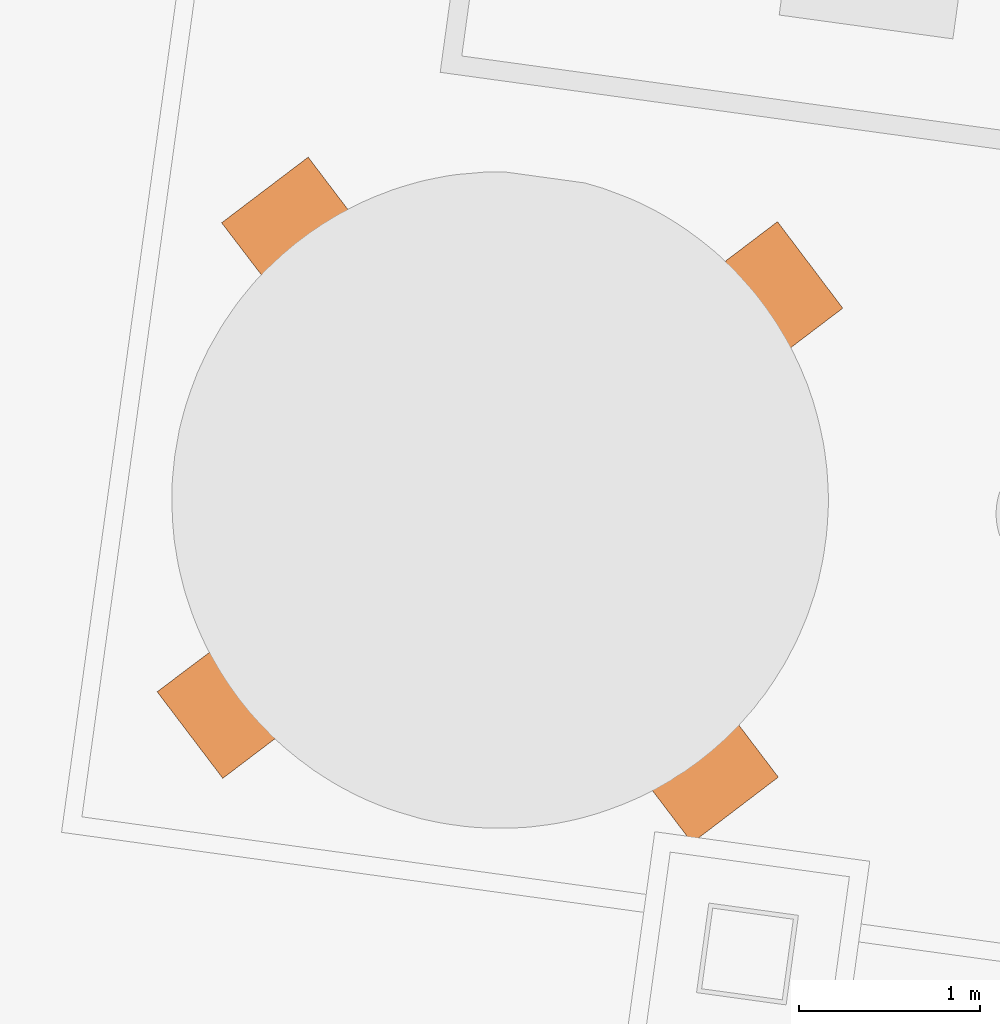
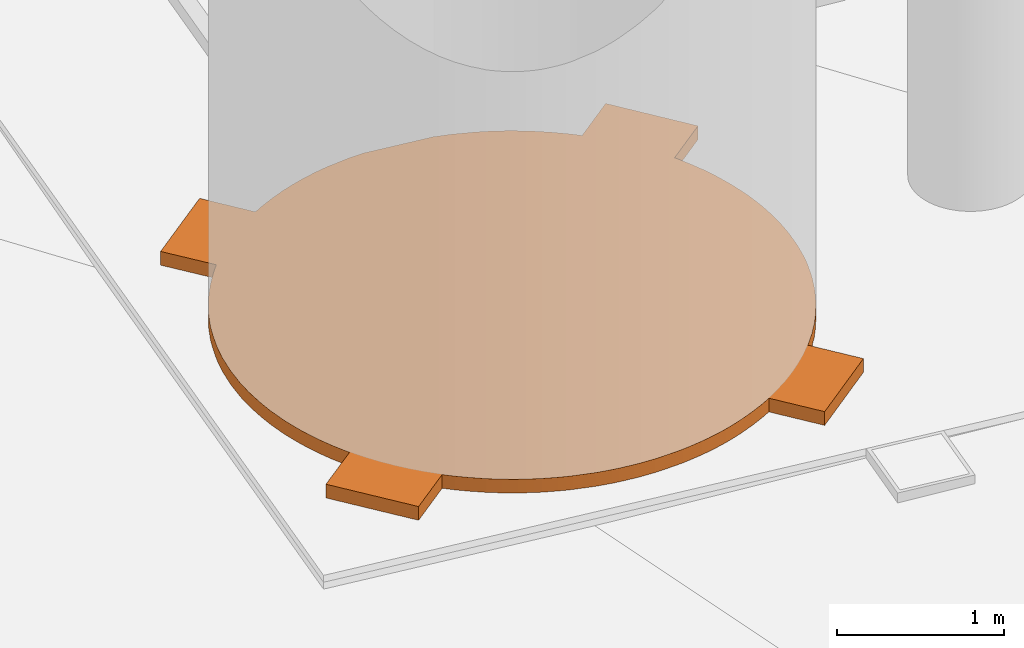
# Not in any storey, part 68 of 75: 1 proxy.
"""IFC4 model written with IfcOpenShell, lengths in metres."""

import ifcopenshell
import ifcopenshell.guid

model = None  # the IFC model being written
_history = None  # IfcOwnerHistory: only IFC2X3 demands one
_inside = {}  # id of a spatial element -> (the spatial element, [elements in it])
_under = {}  # id of a project, library or spatial element -> (it, [spatial elements below it])
_declared = {}  # id of a project -> (the project, [libraries it declares])
_typed = {}  # id of a type object -> (the type object, [elements of that type])
_made_of = {}  # id of a material, layer set ... -> (it, [elements and type objects made of it])


def new_model(schema):
    """Start an empty IFC model of exactly this schema.

    Asked for "IFC4X3", IfcOpenShell would pick the latest addendum, in which some entities
    have other attributes; the version numbers below select the first issue.
    IFC2X3 requires an IfcOwnerHistory on every rooted entity: one is made here for all.
    """
    global model, _history
    if schema == "IFC4X3":
        model = ifcopenshell.file(schema_version=(4, 3, 0, 0))
    else:
        model = ifcopenshell.file(schema=schema)
    _inside.clear()
    _under.clear()
    _declared.clear()
    _typed.clear()
    _made_of.clear()
    _history = None
    if model.schema == "IFC2X3":
        org = make("IfcOrganization", Name="unknown")
        user = make(
            "IfcPersonAndOrganization",
            ThePerson=make("IfcPerson", FamilyName="unknown"),
            TheOrganization=org,
        )
        app = make(
            "IfcApplication",
            ApplicationDeveloper=org,
            Version="unknown",
            ApplicationFullName="unknown",
            ApplicationIdentifier="unknown",
        )
        _history = make(
            "IfcOwnerHistory",
            OwningUser=user,
            OwningApplication=app,
            ChangeAction="ADDED",
            CreationDate=0,
        )
    return model


def make(cls, **values):
    """One entity of the class cls with the attributes given. An attribute that is None is left unset."""
    return model.create_entity(
        cls, **{name: value for name, value in values.items() if value is not None}
    )


def rooted(cls, **values):
    """An entity with a GlobalId (a new one), such as an element, a storey or a relation."""
    return make(cls, GlobalId=ifcopenshell.guid.new(), OwnerHistory=_history, **values)


def si_unit(unit_type, name, prefix=None):
    """IfcSIUnit, for example si_unit("LENGTHUNIT", "METRE", prefix="MILLI")."""
    return make("IfcSIUnit", UnitType=unit_type, Prefix=prefix, Name=name)


def assignment(units):
    """IfcUnitAssignment: the units of a project."""
    return None if units is None else make("IfcUnitAssignment", Units=units)


def point(xyz):
    """IfcCartesianPoint."""
    return None if xyz is None else make("IfcCartesianPoint", Coordinates=xyz)


def direction(xyz):
    """IfcDirection."""
    return None if xyz is None else make("IfcDirection", DirectionRatios=xyz)


def frame(location, z_axis=None, x_axis=None):
    """IfcAxis2Placement3D, a coordinate frame: its origin and axes. An axis left out is left unset."""
    return make(
        "IfcAxis2Placement3D",
        Location=point(location),
        Axis=direction(z_axis),
        RefDirection=direction(x_axis),
    )


def origin():
    """The frame at (0, 0, 0) with its axes left unset."""
    return frame((0.0, 0.0, 0.0))


def origin_with_axes():
    """The frame at (0, 0, 0) with the z axis (0, 0, 1) and the x axis (1, 0, 0) written out."""
    return frame((0.0, 0.0, 0.0), z_axis=(0.0, 0.0, 1.0), x_axis=(1.0, 0.0, 0.0))


def place(relative_to, where):
    """IfcLocalPlacement: puts the frame where relative to a parent placement (None: the world)."""
    return make(
        "IfcLocalPlacement", PlacementRelTo=relative_to, RelativePlacement=where
    )


def context(
    kind, dimensions, precision=None, world=None, true_north=None, identifier=None
):
    """IfcGeometricRepresentationContext, for example the 3D "Model" context."""
    return make(
        "IfcGeometricRepresentationContext",
        ContextIdentifier=identifier,
        ContextType=kind,
        CoordinateSpaceDimension=dimensions,
        Precision=precision,
        WorldCoordinateSystem=world,
        TrueNorth=true_north,
    )


def subcontext(parent, identifier, kind, view, scale=None):
    """IfcGeometricRepresentationSubContext, for example "Body" below "Model"."""
    return make(
        "IfcGeometricRepresentationSubContext",
        ContextIdentifier=identifier,
        ContextType=kind,
        ParentContext=parent,
        TargetScale=scale,
        TargetView=view,
    )


def project(units=None, contexts=None):
    """IfcProject with its units and contexts."""
    return rooted(
        "IfcProject",
        Name="project",
        RepresentationContexts=contexts,
        UnitsInContext=assignment(units),
    )


def spatial(cls, under=None, at=None, **own):
    """A site, building, storey or space (cls), placed at a placement, below another one or the project."""
    s = rooted(cls, ObjectPlacement=at, **own)
    if under is not None:
        _under.setdefault(under.id(), (under, []))[1].append(s)
    return s


def point_list(points):
    """IfcCartesianPointList2D or 3D."""
    cls = (
        "IfcCartesianPointList2D" if len(points[0]) == 2 else "IfcCartesianPointList3D"
    )
    return make(cls, CoordList=points)


def triangles(points, corners, closed=None, point_numbers=None):
    """IfcTriangulatedFaceSet: each triangle names its three corners, points numbered from 1."""
    return make(
        "IfcTriangulatedFaceSet",
        Coordinates=point_list(points),
        Closed=closed,
        CoordIndex=corners,
        PnIndex=point_numbers,
    )


def shape(context_of_items, identifier, shape_type, items):
    """IfcShapeRepresentation: the items that make up one representation, for example the "Body"."""
    return make(
        "IfcShapeRepresentation",
        ContextOfItems=context_of_items,
        RepresentationIdentifier=identifier,
        RepresentationType=shape_type,
        Items=items,
    )


def made_of(thing, what):
    """Note that an element or type object is made of a material, layer set ...; save() writes the relation."""
    if what is not None:
        _made_of.setdefault(what.id(), (what, []))[1].append(thing)
    return thing


def element(
    cls,
    number,
    at=None,
    inside=None,
    cuts=None,
    type_object=None,
    material=None,
    context=None,
    identifier="Body",
    shape_type=None,
    held_by="IfcProductDefinitionShape",
    body=None,
    shapes=None,
    **own,
):
    """One element of the class cls, such as IfcWall. Its Tag is "e" and its number.

    at: its placement. inside: the storey or other place that contains it. cuts: it is an
    opening in that element (IfcRelVoidsElement). A single representation is given by context,
    identifier, shape_type and body (its items); several are given by shapes. held_by: the class
    of the entity that holds the representations. save() writes the other relations.
    """
    e = rooted(cls, Tag="e%d" % number, ObjectPlacement=at, **own)
    if body is not None:
        shapes = [shape(context, identifier, shape_type, body)]
    if shapes is not None:
        e.Representation = make(held_by, Representations=shapes)
    if inside is not None:
        _inside.setdefault(inside.id(), (inside, []))[1].append(e)
    if cuts is not None:
        rooted(
            "IfcRelVoidsElement", RelatingBuildingElement=cuts, RelatedOpeningElement=e
        )
    if type_object is not None:
        _typed.setdefault(type_object.id(), (type_object, []))[1].append(e)
    return made_of(e, material)


def aggregate(whole, parts):
    """IfcRelAggregates: a whole, such as a stair, and the parts it consists of."""
    return rooted("IfcRelAggregates", RelatingObject=whole, RelatedObjects=parts)


def save(model, path):
    """Write the relations noted so far, then the file.

    IfcRelAggregates (storeys below a building ...), IfcRelContainedInSpatialStructure (elements
    in a storey), IfcRelDefinesByType, IfcRelAssociatesMaterial and IfcRelDeclares: one each for
    every whole, place, type object, material and project.
    """
    for whole, parts in _under.values():
        aggregate(whole, parts)
    for where, things in _inside.values():
        rooted(
            "IfcRelContainedInSpatialStructure",
            RelatedElements=things,
            RelatingStructure=where,
        )
    for kind, things in _typed.values():
        rooted("IfcRelDefinesByType", RelatedObjects=things, RelatingType=kind)
    for what, things in _made_of.values():
        rooted("IfcRelAssociatesMaterial", RelatedObjects=things, RelatingMaterial=what)
    for by, libraries in _declared.values():
        rooted("IfcRelDeclares", RelatingContext=by, RelatedDefinitions=libraries)
    model.write(path)


model = new_model("IFC4")

# Units and contexts
model_context = context("Model", 3, precision=1e-05, world=origin_with_axes(), true_north=direction((0.0, 1.0)))
body_context = subcontext(model_context, "Body", "Model", "MODEL_VIEW")
ifc_project = project(units=[si_unit("AREAUNIT", "SQUARE_METRE"), si_unit("VOLUMEUNIT", "CUBIC_METRE"), si_unit("LENGTHUNIT", "METRE")], contexts=[model_context])

# Site
site_placement = place(None, origin_with_axes())
site = spatial("IfcSite", under=ifc_project, at=site_placement, Name="Parcela industrial Jinhong")

# Proxy
proxy_placement = place(None, origin())
element("IfcBuildingElementProxy", 1, at=proxy_placement, inside=site, Name="Plano fuente conservado · Adsorbedor PPU-A / MS1202", context=body_context, shape_type="Tessellation", body=[
    triangles([(49.49641, 58.04874, 1.2), (49.422422, 57.989508, 1.2), (49.458663, 58.020117, 1.2), (49.458663, 58.020117, 1.3), (49.422422, 57.989508, 1.3), (49.49641, 58.04874, 1.3), (49.573411, 58.103998, 1.2), (49.573411, 58.103998, 1.3), (49.534157, 58.077362, 1.2), (49.534157, 58.077362, 1.3), (49.351446, 57.926303, 1.2), (49.351446, 57.926303, 1.3), (49.653425, 58.155283, 1.2), (49.653425, 58.155283, 1.3), (49.612665, 58.130634, 1.2), (49.612665, 58.130634, 1.3), (49.736452, 58.202594, 1.2), (49.694185, 58.179932, 1.2), (49.694185, 58.179932, 1.3), (49.736452, 58.202594, 1.3), (49.864278, 58.265102, 1.2), (49.778719, 58.225257, 1.2), (49.778719, 58.225257, 1.3), (49.864278, 58.265102, 1.3), (49.820745, 58.246173, 1.2), (49.820745, 58.246173, 1.3), (49.952851, 58.300973, 1.2), (49.907811, 58.284031, 1.2), (49.907811, 58.284031, 1.3), (49.952851, 58.300973, 1.3), (50.042689, 58.333111, 1.2), (49.996143, 58.318156, 1.2), (49.996143, 58.318156, 1.3), (50.042689, 58.333111, 1.3), (50.087249, 58.346561, 1.2), (50.087249, 58.346561, 1.3), (50.414293, 58.408372, 1.2), (50.414293, 58.408372, 1.3), (50.225445, 58.380948, 1.2), (50.225445, 58.380948, 1.3), (50.133554, 58.35977, 1.2), (50.133554, 58.35977, 1.3), (50.17962, 58.371232, 1.2), (50.17962, 58.371232, 1.3), (50.273017, 58.390424, 1.2), (50.273017, 58.390424, 1.3), (50.365695, 58.404376, 1.2), (50.365695, 58.404376, 1.3), (50.318603, 58.398393, 1.2), (50.318603, 58.398393, 1.3), (50.556114, 58.417347, 1.2), (50.461145, 58.412608, 1.2), (50.507996, 58.416844, 1.2), (50.507996, 58.416844, 1.3), (50.461145, 58.412608, 1.3), (50.556114, 58.417347, 1.3), (51.072314, 58.353496, 1.2), (50.602486, 58.41809, 1.2), (50.611459, 58.418636, 1.2), (50.611459, 58.418636, 1.3), (50.602486, 58.41809, 1.3), (51.072314, 58.353496, 1.3), (51.063821, 58.356443, 1.2), (51.063821, 58.356443, 1.3), (51.208678, 58.309833, 1.2), (51.118511, 58.340026, 1.2), (51.162961, 58.326796, 1.2), (51.162961, 58.326796, 1.3), (51.118511, 58.340026, 1.3), (51.208678, 58.309833, 1.3), (51.252648, 58.293111, 1.2), (51.252648, 58.293111, 1.3), (51.947834, 57.809583, 1.2), (51.947834, 57.809583, 1.3), (51.667986, 58.065167, 1.2), (51.667986, 58.065167, 1.3), (51.550877, 58.145333, 1.2), (51.550877, 58.145333, 1.3), (51.427088, 58.21574, 1.2), (51.427088, 58.21574, 1.3), (51.383838, 58.237703, 1.2), (51.383838, 58.237703, 1.3), (51.340348, 58.257919, 1.2), (51.340348, 58.257919, 1.3), (51.296618, 58.276388, 1.2), (51.296618, 58.276388, 1.3), (51.509854, 58.170549, 1.2), (51.509854, 58.170549, 1.3), (51.468591, 58.194018, 1.2), (51.468591, 58.194018, 1.3), (51.62919, 58.093636, 1.2), (51.62919, 58.093636, 1.3), (51.590154, 58.120358, 1.2), (51.590154, 58.120358, 1.3), (51.849806, 57.91204, 1.2), (51.849806, 57.91204, 1.3), (51.743591, 58.006724, 1.2), (51.743591, 58.006724, 1.3), (51.706782, 58.036699, 1.2), (51.706782, 58.036699, 1.3), (51.815224, 57.945268, 1.2), (51.780401, 57.976749, 1.2), (51.780401, 57.976749, 1.3), (51.815224, 57.945268, 1.3), (51.916985, 57.844077, 1.2), (51.916985, 57.844077, 1.3), (51.884389, 57.878812, 1.2), (51.884389, 57.878812, 1.3), (51.572034, 55.076195, 1.2), (51.572034, 55.076195, 1.3), (52.272965, 57.287953, 1.2), (52.272965, 57.287953, 1.3), (52.235107, 57.375019, 1.2), (52.235107, 57.375019, 1.3), (52.145964, 57.542098, 1.2), (52.145964, 57.542098, 1.3), (52.094679, 57.622112, 1.2), (52.094679, 57.622112, 1.3), (52.039421, 57.699114, 1.2), (52.039421, 57.699114, 1.3), (51.98019, 57.773102, 1.2), (51.98019, 57.773102, 1.3), (52.010799, 57.736861, 1.2), (52.010799, 57.736861, 1.3), (52.068044, 57.661366, 1.2), (52.068044, 57.661366, 1.3), (52.121315, 57.582859, 1.2), (52.121315, 57.582859, 1.3), (52.214432, 57.418792, 1.2), (52.170613, 57.501338, 1.2), (52.170613, 57.501338, 1.3), (52.214432, 57.418792, 1.3), (52.193516, 57.460818, 1.2), (52.193516, 57.460818, 1.3), (52.255783, 57.331245, 1.2), (52.255783, 57.331245, 1.3), (52.30709, 57.19962, 1.2), (52.291895, 57.24442, 1.2), (52.291895, 57.24442, 1.3), (52.30709, 57.19962, 1.3), (52.335495, 57.108515, 1.2), (52.335495, 57.108515, 1.3), (52.322286, 57.154821, 1.2), (52.322286, 57.154821, 1.3), (52.390327, 56.355329, 1.2), (52.390327, 56.355329, 1.3), (52.369883, 56.970318, 1.2), (52.369883, 56.970318, 1.3), (52.348704, 57.062209, 1.2), (52.348704, 57.062209, 1.3), (52.360167, 57.016144, 1.2), (52.360167, 57.016144, 1.3), (52.387328, 56.877161, 1.2), (52.379599, 56.924493, 1.2), (52.379599, 56.924493, 1.3), (52.387328, 56.877161, 1.3), (52.393311, 56.830069, 1.2), (52.393311, 56.830069, 1.3), (52.403289, 56.734379, 1.2), (52.399293, 56.782977, 1.2), (52.399293, 56.782977, 1.3), (52.403289, 56.734379, 1.3), (52.405779, 56.687767, 1.2), (52.405779, 56.687767, 1.3), (52.404537, 56.497522, 1.2), (52.404537, 56.497522, 1.3), (52.408028, 56.639409, 1.2), (52.408028, 56.639409, 1.3), (52.407528, 56.54516, 1.2), (52.407528, 56.54516, 1.3), (52.408771, 56.593038, 1.2), (52.408771, 56.593038, 1.3), (52.401547, 56.449885, 1.2), (52.401547, 56.449885, 1.3), (52.39681, 56.402487, 1.2), (52.39681, 56.402487, 1.3), (51.652288, 55.129227, 1.2), (51.612794, 55.100844, 1.2), (51.612794, 55.100844, 1.3), (51.652288, 55.129227, 1.3), (51.49226, 55.026657, 1.2), (51.53278, 55.049559, 1.2), (51.53278, 55.049559, 1.3), (51.49226, 55.026657, 1.3), (51.407726, 54.981332, 1.2), (51.449753, 55.002248, 1.2), (51.449753, 55.002248, 1.3), (51.407726, 54.981332, 1.3), (51.322167, 54.941487, 1.2), (51.322167, 54.941487, 1.3), (51.3657, 54.960416, 1.2), (51.3657, 54.960416, 1.3), (51.233594, 54.905616, 1.2), (51.278634, 54.922558, 1.2), (51.278634, 54.922558, 1.3), (51.233594, 54.905616, 1.3), (50.630331, 54.789242, 1.2), (50.630331, 54.789242, 1.3), (50.819004, 54.802453, 1.2), (50.819004, 54.802453, 1.3), (50.961, 54.825641, 1.2), (50.961, 54.825641, 1.3), (51.099197, 54.860028, 1.2), (51.099197, 54.860028, 1.3), (51.188555, 54.888673, 1.2), (51.188555, 54.888673, 1.3), (51.143756, 54.873478, 1.2), (51.143756, 54.873478, 1.3), (51.052891, 54.846819, 1.2), (51.052891, 54.846819, 1.3), (51.006825, 54.835357, 1.2), (51.006825, 54.835357, 1.3), (50.913428, 54.816165, 1.2), (50.913428, 54.816165, 1.3), (50.866096, 54.808436, 1.2), (50.866096, 54.808436, 1.3), (50.676702, 54.789985, 1.2), (50.676702, 54.789985, 1.3), (50.771912, 54.79647, 1.2), (50.771912, 54.79647, 1.3), (50.72506, 54.792234, 1.2), (50.72506, 54.792234, 1.3), (50.067934, 54.866563, 1.2), (50.067934, 54.866563, 1.3), (50.582213, 54.788739, 1.2), (50.582213, 54.788739, 1.3), (50.346011, 54.805197, 1.2), (50.346011, 54.805197, 1.3), (50.488204, 54.790986, 1.2), (50.488204, 54.790986, 1.3), (50.534095, 54.788236, 1.2), (50.534095, 54.788236, 1.3), (50.440566, 54.793977, 1.2), (50.440566, 54.793977, 1.3), (50.393168, 54.798713, 1.2), (50.393168, 54.798713, 1.3), (50.112384, 54.853333, 1.2), (50.112384, 54.853333, 1.3), (50.205259, 54.829887, 1.2), (50.205259, 54.829887, 1.3), (50.251936, 54.81991, 1.2), (50.251936, 54.81991, 1.3), (50.298853, 54.81168, 1.2), (50.298853, 54.81168, 1.3), (50.158581, 54.839864, 1.2), (50.158581, 54.839864, 1.3), (49.977527, 54.895009, 1.2), (50.021737, 54.880033, 1.2), (50.021737, 54.880033, 1.3), (49.977527, 54.895009, 1.3), (49.933557, 54.911732, 1.2), (49.933557, 54.911732, 1.3), (49.88808, 54.930441, 1.2), (49.88808, 54.930441, 1.3), (49.759357, 54.990849, 1.2), (49.759357, 54.990849, 1.3), (49.802607, 54.968886, 1.2), (49.802607, 54.968886, 1.3), (49.84435, 54.94891, 1.2), (49.84435, 54.94891, 1.3), (49.518459, 55.141421, 1.2), (49.518459, 55.141421, 1.3), (49.635568, 55.061256, 1.2), (49.635568, 55.061256, 1.3), (49.676591, 55.03604, 1.2), (49.676591, 55.03604, 1.3), (49.717854, 55.012571, 1.2), (49.717854, 55.012571, 1.3), (49.596291, 55.086231, 1.2), (49.596291, 55.086231, 1.3), (49.555509, 55.113193, 1.2), (49.555509, 55.113193, 1.3), (49.442854, 55.199865, 1.2), (49.479663, 55.16989, 1.2), (49.479663, 55.16989, 1.3), (49.442854, 55.199865, 1.3), (49.371222, 55.261321, 1.2), (49.406044, 55.22984, 1.2), (49.406044, 55.22984, 1.3), (49.371222, 55.261321, 1.3), (49.302056, 55.327777, 1.2), (49.336399, 55.292803, 1.2), (49.336399, 55.292803, 1.3), (49.302056, 55.327777, 1.3), (49.236865, 55.397246, 1.2), (49.26922, 55.360765, 1.2), (49.26922, 55.360765, 1.3), (49.236865, 55.397246, 1.3), (49.175646, 55.469728, 1.2), (49.206015, 55.431741, 1.2), (49.206015, 55.431741, 1.3), (49.175646, 55.469728, 1.3), (49.118401, 55.545223, 1.2), (49.146784, 55.505729, 1.2), (49.146784, 55.505729, 1.3), (49.118401, 55.545223, 1.3), (48.879355, 56.006969, 1.2), (48.879355, 56.006969, 1.3), (49.06513, 55.62373, 1.2), (49.06513, 55.62373, 1.3), (49.091525, 55.58273, 1.2), (49.091525, 55.58273, 1.3), (49.015832, 55.705251, 1.2), (49.015832, 55.705251, 1.3), (49.040241, 55.662744, 1.2), (49.040241, 55.662744, 1.3), (48.949591, 55.831811, 1.2), (48.949591, 55.831811, 1.3), (48.992929, 55.745771, 1.2), (48.992929, 55.745771, 1.3), (48.970267, 55.788037, 1.2), (48.970267, 55.788037, 1.3), (48.911733, 55.918876, 1.2), (48.911733, 55.918876, 1.3), (48.930422, 55.873597, 1.2), (48.930422, 55.873597, 1.3), (48.894551, 55.962169, 1.2), (48.894551, 55.962169, 1.3), (48.837501, 56.142633, 1.2), (48.864159, 56.051768, 1.2), (48.864159, 56.051768, 1.3), (48.837501, 56.142633, 1.3), (48.849203, 56.098314, 1.2), (48.849203, 56.098314, 1.3), (48.826038, 56.188698, 1.2), (48.826038, 56.188698, 1.3), (48.806846, 56.282096, 1.2), (48.806846, 56.282096, 1.3), (48.814816, 56.236511, 1.2), (48.814816, 56.236511, 1.3), (48.799117, 56.329428, 1.2), (48.799117, 56.329428, 1.3), (48.787152, 56.423612, 1.2), (48.791388, 56.37676, 1.2), (48.791388, 56.37676, 1.3), (48.787152, 56.423612, 1.3), (48.780666, 56.518821, 1.2), (48.782915, 56.470463, 1.2), (48.782915, 56.470463, 1.3), (48.780666, 56.518821, 1.3), (48.777674, 56.613551, 1.2), (48.778176, 56.565433, 1.2), (48.778176, 56.565433, 1.3), (48.777674, 56.613551, 1.3), (48.778917, 56.661429, 1.2), (48.778917, 56.661429, 1.3), (48.784658, 56.754958, 1.2), (48.784658, 56.754958, 1.3), (48.780161, 56.709307, 1.2), (48.780161, 56.709307, 1.3), (48.789395, 56.802355, 1.2), (48.789395, 56.802355, 1.3), (48.802362, 56.89667, 1.2), (48.802362, 56.89667, 1.3), (48.794132, 56.849753, 1.2), (48.794132, 56.849753, 1.3), (48.870714, 57.173787, 1.2), (48.870714, 57.173787, 1.3), (48.810592, 56.943588, 1.2), (48.810592, 56.943588, 1.3), (48.830545, 57.036942, 1.2), (48.830545, 57.036942, 1.3), (48.818822, 56.990505, 1.2), (48.818822, 56.990505, 1.3), (48.855498, 57.12783, 1.2), (48.842268, 57.083379, 1.2), (48.842268, 57.083379, 1.3), (48.855498, 57.12783, 1.3), (49.026721, 57.518933, 1.2), (49.026721, 57.518933, 1.3), (49.003252, 57.47767, 1.2), (49.003252, 57.47767, 1.3), (48.939592, 57.351174, 1.2), (48.939592, 57.351174, 1.3), (48.88569, 57.217997, 1.2), (48.88569, 57.217997, 1.3), (48.902653, 57.263714, 1.2), (48.902653, 57.263714, 1.3), (48.919376, 57.307684, 1.2), (48.919376, 57.307684, 1.3), (48.959808, 57.394663, 1.2), (48.959808, 57.394663, 1.3), (48.979784, 57.436407, 1.2), (48.979784, 57.436407, 1.3), (49.077152, 57.600979, 1.2), (49.05019, 57.560196, 1.2), (49.05019, 57.560196, 1.3), (49.077152, 57.600979, 1.3), (49.103874, 57.640015, 1.2), (49.103874, 57.640015, 1.3), (49.1888, 57.75291, 1.2), (49.1888, 57.75291, 1.3), (49.158825, 57.716101, 1.2), (49.158825, 57.716101, 1.3), (49.130596, 57.679051, 1.2), (49.130596, 57.679051, 1.3), (49.283724, 57.860871, 1.2), (49.218775, 57.78972, 1.2), (49.218775, 57.78972, 1.3), (49.283724, 57.860871, 1.3), (49.250496, 57.826289, 1.2), (49.250496, 57.826289, 1.3), (49.316712, 57.893707, 1.2), (49.316712, 57.893707, 1.3), (49.386181, 57.958899, 1.2), (49.386181, 57.958899, 1.3), (51.727782, 55.186471, 1.2), (51.727782, 55.186471, 1.3), (51.800264, 55.24769, 1.2), (51.800264, 55.24769, 1.3), (51.965924, 55.417109, 1.2), (51.965924, 55.417109, 1.3), (52.025874, 55.490728, 1.2), (52.025874, 55.490728, 1.3), (52.134508, 55.646633, 1.2), (52.134508, 55.646633, 1.3), (52.204915, 55.770422, 1.2), (52.204915, 55.770422, 1.3), (52.265323, 55.899145, 1.2), (52.265323, 55.899145, 1.3), (52.365877, 56.216324, 1.2), (52.365877, 56.216324, 1.3), (52.383843, 56.308172, 1.2), (52.383843, 56.308172, 1.3), (52.375613, 56.261255, 1.2), (52.375613, 56.261255, 1.3), (52.315731, 56.032802, 1.2), (52.3559, 56.169647, 1.2), (52.3559, 56.169647, 1.3), (52.315731, 56.032802, 1.3), (52.344177, 56.12321, 1.2), (52.344177, 56.12321, 1.3), (52.330707, 56.077013, 1.2), (52.330707, 56.077013, 1.3), (52.283792, 55.942875, 1.2), (52.300515, 55.986846, 1.2), (52.300515, 55.986846, 1.3), (52.283792, 55.942875, 1.3), (52.246853, 55.855415, 1.2), (52.246853, 55.855415, 1.3), (52.226637, 55.811925, 1.2), (52.226637, 55.811925, 1.3), (52.182952, 55.727173, 1.2), (52.182952, 55.727173, 1.3), (52.159484, 55.685909, 1.2), (52.159484, 55.685909, 1.3), (52.082571, 55.566574, 1.2), (52.109293, 55.60561, 1.2), (52.109293, 55.60561, 1.3), (52.082571, 55.566574, 1.3), (52.055849, 55.527538, 1.2), (52.055849, 55.527538, 1.3), (51.997405, 55.451932, 1.2), (51.997405, 55.451932, 1.3), (51.869733, 55.312882, 1.2), (51.934202, 55.38054, 1.2), (51.934202, 55.38054, 1.3), (51.869733, 55.312882, 1.3), (51.902721, 55.345718, 1.2), (51.902721, 55.345718, 1.3), (51.834758, 55.278539, 1.2), (51.834758, 55.278539, 1.3), (51.763783, 55.215334, 1.2), (51.763783, 55.215334, 1.3), (51.689795, 55.156102, 1.2), (51.689795, 55.156102, 1.3)], [[1, 2, 3], [5, 6, 4], [7, 2, 1], [6, 5, 8], [7, 1, 9], [6, 8, 10], [2, 7, 11], [5, 12, 8], [13, 11, 7], [12, 14, 8], [13, 7, 15], [8, 14, 16], [18, 17, 13], [19, 14, 20], [22, 21, 17], [23, 20, 24], [25, 21, 22], [23, 24, 26], [28, 27, 21], [29, 24, 30], [32, 31, 27], [33, 30, 34], [31, 35, 27], [34, 30, 36], [35, 37, 27], [36, 30, 38], [37, 35, 39], [36, 38, 40], [39, 35, 41], [36, 40, 42], [43, 39, 41], [44, 42, 40], [45, 37, 39], [46, 40, 38], [47, 37, 45], [48, 46, 38], [47, 45, 49], [46, 48, 50], [52, 53, 51], [56, 54, 55], [58, 59, 57], [62, 60, 61], [59, 63, 57], [62, 64, 60], [65, 66, 67], [69, 70, 68], [71, 66, 65], [70, 69, 72], [37, 66, 71], [72, 69, 38], [37, 71, 73], [74, 72, 38], [73, 71, 75], [72, 74, 76], [75, 71, 77], [72, 76, 78], [77, 71, 79], [72, 78, 80], [79, 71, 81], [72, 80, 82], [81, 71, 83], [72, 82, 84], [83, 71, 85], [72, 84, 86], [87, 77, 79], [88, 80, 78], [87, 79, 89], [80, 88, 90], [91, 75, 77], [92, 78, 76], [91, 77, 93], [78, 92, 94], [95, 73, 75], [96, 76, 74], [95, 75, 97], [76, 96, 98], [97, 75, 99], [76, 98, 100], [102, 101, 97], [103, 98, 104], [95, 97, 101], [98, 96, 104], [105, 73, 95], [106, 96, 74], [105, 95, 107], [96, 106, 108], [109, 37, 73], [110, 74, 38], [73, 111, 109], [74, 110, 112], [111, 73, 113], [74, 112, 114], [113, 73, 115], [74, 114, 116], [115, 73, 117], [74, 116, 118], [117, 73, 119], [74, 118, 120], [119, 73, 121], [74, 120, 122], [123, 119, 121], [124, 122, 120], [125, 117, 119], [126, 120, 118], [115, 117, 127], [118, 116, 128], [130, 129, 115], [131, 116, 132], [133, 129, 130], [131, 132, 134], [113, 115, 129], [116, 114, 132], [135, 111, 113], [136, 114, 112], [138, 137, 111], [139, 112, 140], [137, 141, 111], [140, 112, 142], [141, 137, 143], [140, 142, 144], [141, 145, 111], [142, 112, 146], [145, 141, 147], [142, 146, 148], [147, 141, 149], [142, 148, 150], [151, 147, 149], [152, 150, 148], [154, 153, 147], [155, 148, 156], [153, 157, 147], [156, 148, 158], [160, 159, 157], [161, 158, 162], [159, 163, 157], [162, 158, 164], [163, 165, 157], [164, 158, 166], [165, 163, 167], [164, 166, 168], [169, 165, 167], [170, 168, 166], [169, 167, 171], [168, 170, 172], [145, 165, 173], [166, 146, 174], [175, 145, 173], [176, 174, 146], [109, 177, 178], [179, 180, 110], [182, 181, 109], [183, 110, 184], [186, 185, 181], [187, 184, 188], [185, 109, 181], [110, 188, 184], [185, 189, 109], [188, 110, 190], [189, 185, 191], [188, 190, 192], [194, 193, 189], [195, 190, 196], [193, 109, 189], [110, 196, 190], [193, 197, 109], [196, 110, 198], [197, 193, 199], [196, 198, 200], [199, 193, 201], [196, 200, 202], [201, 193, 203], [196, 202, 204], [203, 193, 205], [196, 204, 206], [207, 203, 205], [208, 206, 204], [209, 201, 203], [210, 204, 202], [211, 201, 209], [212, 210, 202], [213, 199, 201], [214, 202, 200], [215, 199, 213], [216, 214, 200], [217, 197, 199], [218, 200, 198], [217, 199, 219], [200, 218, 220], [221, 217, 219], [222, 220, 218], [197, 223, 109], [198, 110, 224], [223, 197, 225], [198, 224, 226], [227, 223, 225], [228, 226, 224], [227, 225, 229], [226, 228, 230], [229, 225, 231], [226, 230, 232], [233, 227, 229], [234, 230, 228], [235, 227, 233], [236, 234, 228], [237, 223, 227], [238, 228, 224], [237, 227, 239], [228, 238, 240], [239, 227, 241], [228, 240, 242], [241, 227, 243], [228, 242, 244], [237, 239, 245], [240, 238, 246], [248, 247, 223], [249, 224, 250], [247, 251, 223], [250, 224, 252], [251, 253, 223], [252, 224, 254], [253, 255, 223], [254, 224, 256], [255, 253, 257], [254, 256, 258], [257, 253, 259], [254, 258, 260], [255, 261, 223], [256, 224, 262], [261, 255, 263], [256, 262, 264], [263, 255, 265], [256, 264, 266], [265, 255, 267], [256, 266, 268], [269, 261, 263], [270, 264, 262], [271, 261, 269], [272, 270, 262], [274, 273, 261], [275, 262, 276], [278, 277, 273], [279, 276, 280], [282, 281, 277], [283, 280, 284], [286, 285, 281], [287, 284, 288], [290, 289, 285], [291, 288, 292], [294, 293, 289], [295, 292, 296], [293, 297, 289], [296, 292, 298], [297, 293, 299], [296, 298, 300], [299, 293, 301], [296, 300, 302], [303, 297, 299], [304, 300, 298], [303, 299, 305], [300, 304, 306], [307, 297, 303], [308, 304, 298], [307, 303, 309], [304, 308, 310], [311, 307, 309], [312, 310, 308], [313, 297, 307], [314, 308, 298], [313, 307, 315], [308, 314, 316], [317, 297, 313], [318, 314, 298], [320, 319, 297], [321, 298, 322], [323, 319, 320], [321, 322, 324], [319, 325, 297], [322, 298, 326], [325, 327, 297], [326, 298, 328], [327, 325, 329], [326, 328, 330], [327, 331, 297], [328, 298, 332], [334, 333, 331], [335, 332, 336], [338, 337, 333], [339, 336, 340], [342, 341, 337], [343, 340, 344], [341, 345, 337], [344, 340, 346], [345, 347, 337], [346, 340, 348], [347, 345, 349], [346, 348, 350], [347, 351, 337], [348, 340, 352], [351, 353, 337], [352, 340, 354], [353, 351, 355], [352, 354, 356], [353, 357, 337], [354, 340, 358], [357, 353, 359], [354, 358, 360], [361, 357, 359], [362, 360, 358], [361, 359, 363], [360, 362, 364], [366, 365, 361], [367, 362, 368], [357, 361, 365], [362, 358, 368], [357, 369, 337], [358, 340, 370], [369, 357, 371], [358, 370, 372], [371, 357, 373], [358, 372, 374], [373, 357, 375], [358, 374, 376], [377, 373, 375], [378, 376, 374], [379, 373, 377], [380, 378, 374], [371, 373, 381], [374, 372, 382], [383, 371, 381], [384, 382, 372], [386, 385, 369], [387, 370, 388], [385, 389, 369], [388, 370, 390], [11, 369, 389], [370, 12, 390], [391, 11, 389], [392, 390, 12], [391, 389, 393], [390, 392, 394], [393, 389, 395], [390, 394, 396], [398, 397, 391], [399, 392, 400], [401, 397, 398], [399, 400, 402], [397, 403, 391], [400, 392, 404], [11, 391, 403], [392, 12, 404], [2, 11, 405], [12, 5, 406], [11, 13, 369], [12, 370, 14], [369, 13, 37], [370, 38, 14], [17, 37, 13], [20, 14, 38], [27, 37, 17], [30, 20, 38], [21, 27, 17], [24, 20, 30], [337, 369, 37], [340, 38, 370], [109, 337, 37], [340, 110, 38], [261, 337, 109], [262, 110, 340], [223, 261, 109], [224, 110, 262], [261, 297, 337], [298, 262, 340], [285, 297, 261], [288, 262, 298], [273, 285, 261], [276, 262, 288], [281, 285, 273], [284, 276, 288], [277, 281, 273], [280, 276, 284], [289, 297, 285], [292, 288, 298], [331, 337, 297], [332, 298, 340], [333, 337, 331], [336, 332, 340], [109, 407, 177], [408, 110, 180], [109, 409, 407], [410, 110, 408], [109, 411, 409], [412, 110, 410], [109, 413, 411], [414, 110, 412], [413, 109, 111], [110, 414, 112], [145, 413, 111], [146, 112, 414], [413, 145, 415], [146, 414, 416], [415, 145, 417], [146, 416, 418], [417, 145, 419], [146, 418, 420], [419, 145, 421], [146, 420, 422], [421, 145, 423], [146, 422, 424], [425, 421, 423], [426, 424, 422], [428, 427, 421], [429, 422, 430], [431, 427, 428], [429, 430, 432], [433, 427, 431], [434, 432, 430], [436, 435, 427], [437, 430, 438], [419, 427, 435], [430, 420, 438], [417, 419, 439], [420, 418, 440], [441, 417, 439], [442, 440, 418], [415, 417, 443], [418, 416, 444], [445, 415, 443], [446, 444, 416], [448, 447, 415], [449, 416, 450], [413, 447, 451], [450, 414, 452], [411, 413, 453], [414, 412, 454], [456, 455, 411], [457, 412, 458], [459, 455, 456], [457, 458, 460], [409, 411, 455], [412, 410, 458], [461, 409, 455], [462, 458, 410], [447, 413, 415], [450, 416, 414], [427, 419, 421], [430, 422, 420], [463, 407, 409], [464, 410, 408], [465, 177, 407], [466, 408, 180], [165, 145, 157], [166, 158, 146], [157, 145, 147], [158, 148, 146], [37, 51, 66], [69, 56, 38], [51, 37, 52], [55, 38, 56], [57, 66, 51], [62, 56, 69], [57, 51, 58], [61, 56, 62], [61, 59, 58], [61, 60, 59], [56, 58, 51], [56, 61, 58], [51, 53, 54], [51, 54, 56], [55, 53, 52], [55, 54, 53], [38, 52, 37], [38, 55, 52], [37, 47, 48], [48, 38, 37], [47, 49, 50], [50, 48, 47], [46, 49, 45], [46, 50, 49], [40, 45, 39], [40, 46, 45], [39, 43, 44], [44, 40, 39], [42, 43, 41], [42, 44, 43], [36, 41, 35], [36, 42, 41], [34, 35, 31], [34, 36, 35], [31, 32, 33], [31, 33, 34], [30, 32, 27], [30, 33, 32], [27, 28, 29], [27, 29, 30], [24, 28, 21], [24, 29, 28], [21, 25, 26], [26, 24, 21], [23, 25, 22], [23, 26, 25], [20, 22, 17], [20, 23, 22], [17, 18, 19], [17, 19, 20], [14, 18, 13], [14, 19, 18], [13, 15, 16], [16, 14, 13], [8, 15, 7], [8, 16, 15], [7, 9, 10], [10, 8, 7], [6, 9, 1], [6, 10, 9], [1, 3, 4], [1, 4, 6], [5, 3, 2], [5, 4, 3], [2, 405, 406], [406, 5, 2], [12, 405, 11], [12, 406, 405], [11, 403, 404], [404, 12, 11], [400, 403, 397], [400, 404, 403], [402, 397, 401], [397, 402, 400], [401, 398, 399], [401, 399, 402], [398, 391, 392], [398, 392, 399], [394, 391, 393], [391, 394, 392], [396, 393, 395], [393, 396, 394], [395, 389, 390], [395, 390, 396], [389, 385, 388], [389, 388, 390], [387, 385, 386], [387, 388, 385], [386, 369, 370], [386, 370, 387], [372, 369, 371], [369, 372, 370], [384, 371, 383], [371, 384, 372], [383, 381, 382], [383, 382, 384], [381, 373, 374], [381, 374, 382], [380, 373, 379], [373, 380, 374], [379, 377, 378], [379, 378, 380], [377, 375, 376], [377, 376, 378], [375, 357, 358], [375, 358, 376], [368, 357, 365], [357, 368, 358], [367, 365, 366], [367, 368, 365], [366, 361, 362], [366, 362, 367], [364, 361, 363], [361, 364, 362], [363, 359, 360], [363, 360, 364], [359, 353, 354], [359, 354, 360], [356, 353, 355], [353, 356, 354], [355, 351, 352], [355, 352, 356], [351, 347, 348], [351, 348, 352], [350, 347, 349], [347, 350, 348], [349, 345, 346], [349, 346, 350], [345, 341, 344], [345, 344, 346], [343, 341, 342], [343, 344, 341], [342, 337, 340], [342, 340, 343], [339, 337, 338], [339, 340, 337], [338, 333, 336], [338, 336, 339], [335, 333, 334], [335, 336, 333], [334, 331, 332], [334, 332, 335], [331, 327, 328], [331, 328, 332], [330, 327, 329], [327, 330, 328], [329, 325, 326], [329, 326, 330], [325, 319, 322], [325, 322, 326], [324, 319, 323], [319, 324, 322], [323, 320, 321], [323, 321, 324], [320, 297, 298], [320, 298, 321], [318, 297, 317], [297, 318, 298], [317, 313, 314], [317, 314, 318], [316, 313, 315], [313, 316, 314], [315, 307, 308], [315, 308, 316], [312, 307, 311], [307, 312, 308], [311, 309, 310], [311, 310, 312], [309, 303, 304], [309, 304, 310], [306, 303, 305], [303, 306, 304], [305, 299, 300], [305, 300, 306], [302, 299, 301], [299, 302, 300], [301, 293, 296], [301, 296, 302], [295, 293, 294], [295, 296, 293], [294, 289, 292], [294, 292, 295], [291, 289, 290], [291, 292, 289], [290, 285, 288], [290, 288, 291], [287, 285, 286], [287, 288, 285], [286, 281, 284], [286, 284, 287], [283, 281, 282], [283, 284, 281], [280, 282, 277], [280, 283, 282], [277, 278, 279], [277, 279, 280], [276, 278, 273], [276, 279, 278], [273, 274, 275], [273, 275, 276], [262, 274, 261], [262, 275, 274], [261, 271, 272], [272, 262, 261], [270, 271, 269], [270, 272, 271], [264, 269, 263], [264, 270, 269], [263, 265, 266], [266, 264, 263], [265, 267, 268], [268, 266, 265], [256, 267, 255], [256, 268, 267], [255, 257, 258], [258, 256, 255], [257, 259, 260], [260, 258, 257], [254, 259, 253], [254, 260, 259], [252, 253, 251], [252, 254, 253], [250, 251, 247], [250, 252, 251], [247, 248, 249], [247, 249, 250], [224, 248, 223], [224, 249, 248], [223, 237, 238], [238, 224, 223], [237, 245, 246], [246, 238, 237], [240, 245, 239], [240, 246, 245], [239, 241, 242], [242, 240, 239], [241, 243, 244], [244, 242, 241], [228, 243, 227], [228, 244, 243], [227, 235, 236], [236, 228, 227], [234, 235, 233], [234, 236, 235], [230, 233, 229], [230, 234, 233], [229, 231, 232], [232, 230, 229], [226, 231, 225], [226, 232, 231], [198, 225, 197], [198, 226, 225], [197, 217, 218], [218, 198, 197], [217, 221, 222], [222, 218, 217], [220, 221, 219], [220, 222, 221], [200, 219, 199], [200, 220, 219], [199, 215, 216], [216, 200, 199], [214, 215, 213], [214, 216, 215], [202, 213, 201], [202, 214, 213], [201, 211, 212], [212, 202, 201], [210, 211, 209], [210, 212, 211], [204, 209, 203], [204, 210, 209], [203, 207, 208], [208, 204, 203], [206, 207, 205], [206, 208, 207], [196, 205, 193], [196, 206, 205], [193, 194, 195], [193, 195, 196], [190, 194, 189], [190, 195, 194], [189, 191, 192], [192, 190, 189], [188, 191, 185], [188, 192, 191], [185, 186, 187], [185, 187, 188], [184, 186, 181], [184, 187, 186], [181, 182, 183], [181, 183, 184], [110, 182, 109], [110, 183, 182], [109, 178, 179], [179, 110, 109], [180, 178, 177], [180, 179, 178], [177, 465, 466], [466, 180, 177], [408, 465, 407], [408, 466, 465], [407, 463, 464], [464, 408, 407], [410, 463, 409], [410, 464, 463], [409, 461, 462], [462, 410, 409], [458, 461, 455], [458, 462, 461], [455, 459, 460], [460, 458, 455], [459, 456, 457], [459, 457, 460], [456, 411, 412], [456, 412, 457], [454, 411, 453], [411, 454, 412], [453, 413, 414], [453, 414, 454], [452, 413, 451], [413, 452, 414], [451, 447, 450], [451, 450, 452], [449, 447, 448], [449, 450, 447], [448, 415, 416], [448, 416, 449], [446, 415, 445], [415, 446, 416], [445, 443, 444], [445, 444, 446], [443, 417, 418], [443, 418, 444], [442, 417, 441], [417, 442, 418], [441, 439, 440], [441, 440, 442], [439, 419, 420], [439, 420, 440], [438, 419, 435], [419, 438, 420], [437, 435, 436], [437, 438, 435], [436, 427, 430], [436, 430, 437], [434, 427, 433], [427, 434, 430], [433, 431, 432], [433, 432, 434], [431, 428, 429], [431, 429, 432], [428, 421, 422], [428, 422, 429], [426, 421, 425], [421, 426, 422], [425, 423, 424], [425, 424, 426], [423, 145, 146], [423, 146, 424], [176, 145, 175], [145, 176, 146], [175, 173, 174], [175, 174, 176], [173, 165, 166], [173, 166, 174], [170, 165, 169], [165, 170, 166], [172, 169, 171], [169, 172, 170], [171, 167, 168], [171, 168, 172], [167, 163, 164], [167, 164, 168], [163, 159, 162], [163, 162, 164], [161, 159, 160], [161, 162, 159], [160, 157, 158], [160, 158, 161], [157, 153, 156], [157, 156, 158], [155, 153, 154], [155, 156, 153], [154, 147, 148], [154, 148, 155], [152, 147, 151], [147, 152, 148], [151, 149, 150], [151, 150, 152], [149, 141, 142], [149, 142, 150], [144, 141, 143], [141, 144, 142], [143, 137, 140], [143, 140, 144], [139, 137, 138], [139, 140, 137], [138, 111, 112], [138, 112, 139], [136, 111, 135], [111, 136, 112], [135, 113, 114], [135, 114, 136], [132, 113, 129], [113, 132, 114], [134, 129, 133], [129, 134, 132], [133, 130, 131], [133, 131, 134], [130, 115, 116], [130, 116, 131], [128, 115, 127], [115, 128, 116], [127, 117, 118], [127, 118, 128], [126, 117, 125], [117, 126, 118], [125, 119, 120], [125, 120, 126], [124, 119, 123], [119, 124, 120], [123, 121, 122], [123, 122, 124], [121, 73, 74], [121, 74, 122], [106, 73, 105], [73, 106, 74], [108, 105, 107], [105, 108, 106], [96, 107, 95], [96, 108, 107], [95, 101, 104], [104, 96, 95], [101, 102, 103], [101, 103, 104], [98, 102, 97], [98, 103, 102], [97, 99, 100], [100, 98, 97], [76, 99, 75], [76, 100, 99], [75, 91, 92], [92, 76, 75], [91, 93, 94], [94, 92, 91], [78, 93, 77], [78, 94, 93], [77, 87, 88], [88, 78, 77], [87, 89, 90], [90, 88, 87], [80, 89, 79], [80, 90, 89], [79, 81, 82], [82, 80, 79], [81, 83, 84], [84, 82, 81], [83, 85, 86], [86, 84, 83], [72, 85, 71], [72, 86, 85], [70, 71, 65], [70, 72, 71], [65, 67, 68], [65, 68, 70], [69, 67, 66], [69, 68, 67], [62, 66, 57], [62, 69, 66], [57, 63, 64], [64, 62, 57], [60, 63, 59], [64, 63, 60]], closed=True),
    triangles([(52.131809, 55.070418, 1.2), (51.654761, 54.707124, 1.2), (51.436326, 54.995196, 1.2), (51.436326, 54.995196, 1.3), (51.654761, 54.707124, 1.3), (52.131809, 55.070418, 1.3), (51.913375, 55.358489, 1.2), (51.913375, 55.358489, 1.3)], [[3, 1, 2], [6, 4, 5], [1, 3, 7], [8, 4, 6], [1, 7, 6], [7, 8, 6], [2, 1, 5], [5, 1, 6], [2, 4, 3], [5, 4, 2], [7, 3, 8], [4, 8, 3]], closed=True),
    triangles([(48.986117, 55.760944, 1.2), (49.059352, 55.063954, 1.2), (48.696299, 55.542749, 1.2), (48.696299, 55.542749, 1.3), (49.059352, 55.063954, 1.3), (48.986117, 55.760944, 1.3), (49.347424, 55.282389, 1.2), (49.347424, 55.282389, 1.3)], [[3, 1, 2], [6, 4, 5], [1, 7, 2], [5, 8, 6], [5, 2, 7], [8, 5, 7], [2, 4, 3], [5, 4, 2], [6, 1, 3], [4, 6, 3], [1, 8, 7], [1, 6, 8]], closed=True),
    triangles([(52.488399, 57.66408, 1.2), (52.200328, 57.445645, 1.2), (51.839021, 57.9242, 1.2), (51.839021, 57.9242, 1.3), (52.200328, 57.445645, 1.3), (52.488399, 57.66408, 1.3), (52.127093, 58.142635, 1.2), (52.127093, 58.142635, 1.3)], [[3, 1, 2], [6, 4, 5], [1, 3, 7], [8, 4, 6], [7, 3, 8], [4, 8, 3], [1, 7, 6], [7, 8, 6], [2, 1, 5], [5, 1, 6], [2, 4, 3], [5, 4, 2]], closed=True),
    triangles([(49.531684, 58.499465, 1.2), (49.27307, 57.848099, 1.2), (49.052889, 58.136411, 1.2), (49.052889, 58.136411, 1.3), (49.27307, 57.848099, 1.3), (49.531684, 58.499465, 1.3), (49.750119, 58.211393, 1.2), (49.750119, 58.211393, 1.3)], [[3, 1, 2], [6, 4, 5], [1, 7, 2], [5, 8, 6], [2, 4, 3], [5, 4, 2], [6, 1, 3], [4, 6, 3], [1, 8, 7], [1, 6, 8], [5, 2, 7], [8, 5, 7]], closed=True),
])

save(model, "model.ifc")
